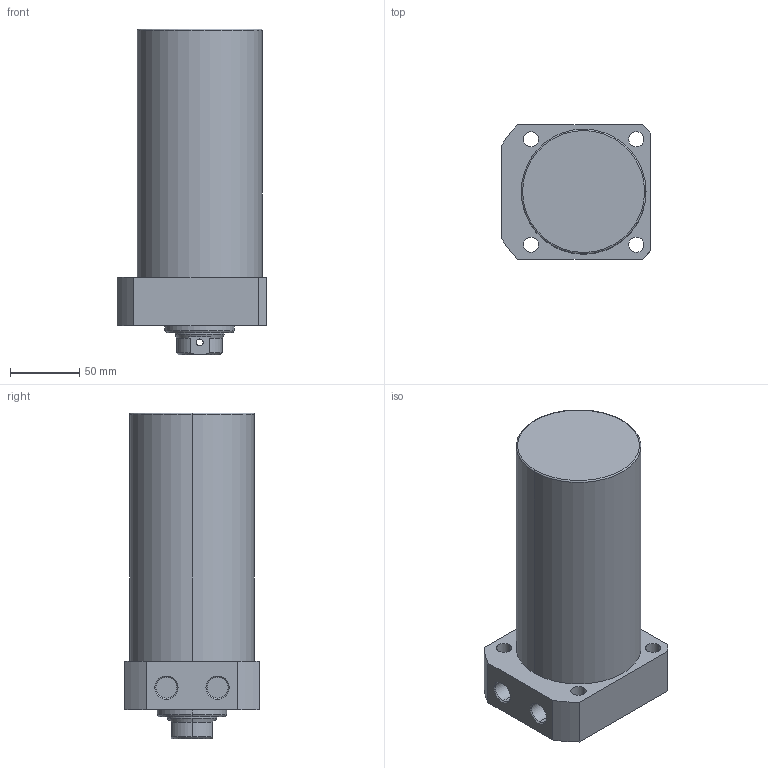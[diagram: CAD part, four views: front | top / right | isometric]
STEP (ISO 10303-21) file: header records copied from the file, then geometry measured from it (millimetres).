
FILE_DESCRIPTION (( 'STEP AP203' ), '1' );
FILE_NAME ('CLLR-090CB-135.STEP', '2019-12-18T06:18:42', ( '' ), ( '' ), 'SwSTEP 2.0', 'SolidWorks 2015', '' );
FILE_SCHEMA (( 'CONFIG_CONTROL_DESIGN' ));
Length unit declared in the file: millimetre
Products named in the file (1): CLLR-090CB-135
Bounding box: 108 x 97 x 235 mm (x, y, z)
Volume: 1487405.2 mm3; surface area: 95821.6 mm2
Topology: 1 solids, 1 shells, 69 faces, 163 edges, 102 vertices
Faces by surface type: cylinder 33, plane 19, cone 15, torus 2
Entity records: 2229 total; most frequent: CARTESIAN_POINT 497, DIRECTION 370, ORIENTED_EDGE 322, EDGE_CURVE 161, AXIS2_PLACEMENT_3D 151, VERTEX_POINT 102, EDGE_LOOP 89, CIRCLE 81
